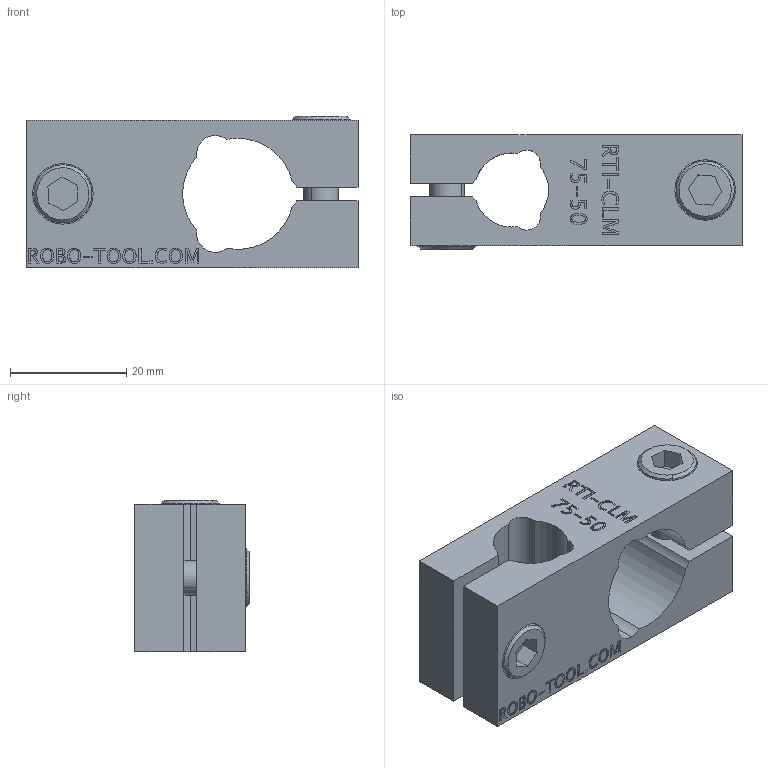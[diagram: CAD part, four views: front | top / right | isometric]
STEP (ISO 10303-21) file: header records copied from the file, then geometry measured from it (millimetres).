
FILE_DESCRIPTION (( 'STEP AP214' ), '1' );
FILE_NAME ('RTI-CLM-75-50.STEP', '2013-10-18T13:13:41', ( 'user' ), ( '' ), 'SwSTEP 2.0', 'SolidWorks 2009', '' );
FILE_SCHEMA (( 'AUTOMOTIVE_DESIGN' ));
Length unit declared in the file: inch
Products named in the file (5): RTI-CLM-75-50; M6 S.H.C.S._M6x12mm; M6 WASHER; M6 S.H.C.S._M6x20mm
Assembly tree (5 placements, depth 2):
  RTI-CLM-75-50
    M6 S.H.C.S._M6x20mm
    M6 WASHER  x2
    M6 S.H.C.S._M6x12mm
    RTI-CLM-75-50
Bounding box: 57.15 x 19.7 x 26.05 mm (x, y, z)
Volume: 17318.7 mm3; surface area: 10498.4 mm2
Topology: 5 solids, 5 shells, 357 faces, 904 edges, 600 vertices
Faces by surface type: plane 202, bspline 98, cylinder 49, cone 8
Entity records: 18188 total; most frequent: CARTESIAN_POINT 8309, ORIENTED_EDGE 1784, DIRECTION 1316, EDGE_CURVE 892, LINE 598, VECTOR 598, VERTEX_POINT 592, EDGE_LOOP 404
